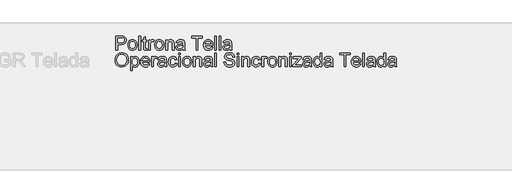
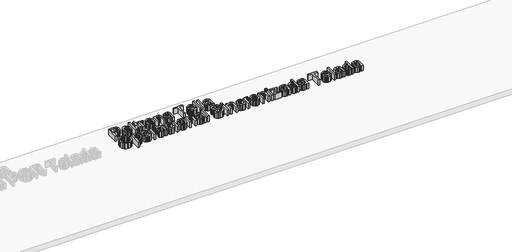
# One storey, part 5 of 5: 1 proxy.
"""IFC4 building model written with IfcOpenShell, lengths in millimetres."""

from ifc_helpers import new_model, si_unit, origin, origin_with_axes, place, context, project, spatial, polyline, outline, extrude, element, save

model = new_model("IFC4")

# Units and contexts
model_context = context("Model", 3, world=origin())
ifc_project = project(units=[si_unit("LENGTHUNIT", "METRE", prefix="MILLI")], contexts=[model_context])

# Site, building, storey
site = spatial("IfcSite", under=ifc_project)
building = spatial("IfcBuilding", under=site)
storey = spatial("IfcBuildingStorey", under=building, Name="Nível 1", Elevation=0.0)

# Proxy
placement = place(None, origin())
element("IfcBuildingElementProxy", 1, Name="300 mm", ObjectType="300 mm", at=placement, inside=storey, context=model_context, shape_type="SweptSolid", body=[
    extrude(outline(polyline([(9485.1352066, 6235.2002146), (9485.1352066, 6536.5691451), (9596.8241803, 6536.5691451), (9641.8529365, 6533.6996655), (9661.9300964, 6528.3377854), (9678.457195, 6519.6097851), (9691.7653262, 6507.1201913), (9702.1855837, 6490.4735311), (9708.9178242, 6470.8378296), (9711.1619044, 6449.3811122), (9709.6466904, 6430.8812464), (9705.1010485, 6413.8621056), (9697.5249787, 6398.3236898), (9686.9184809, 6384.2659991), (9672.3572517, 6372.6133369), (9652.9169875, 6364.2900067), (9628.5976884, 6359.2960086), (9599.3993543, 6357.6313426), (9522.8063229, 6357.6313426), (9522.8063229, 6235.2002146), (9485.1352066, 6235.2002146)]), holes=[polyline([(9522.8063229, 6395.3024589), (9601.6066462, 6395.3024589), (9635.0103314, 6398.7605497), (9657.0832511, 6409.1348219), (9669.3889039, 6425.7814822), (9673.4907881, 6448.056737), (9671.071964, 6464.9793088), (9663.8154916, 6479.2531302), (9652.6226819, 6489.9952845), (9638.3948458, 6496.3228548), (9600.7237295, 6498.8980288), (9522.8063229, 6498.8980288), (9522.8063229, 6395.3024589)])]), origin_with_axes(), (0.0, 0.0, 1.0), 150.0),
    extrude(outline(polyline([(9748.8330207, 6345.8591188), (9750.8701673, 6374.5217247), (9756.9816069, 6399.2204022), (9767.1673396, 6419.9551511), (9781.4273655, 6436.7259716), (9795.7839603, 6447.4451332), (9811.6304773, 6455.1016772), (9828.9669163, 6459.6956036), (9847.7932774, 6461.2269124), (9868.5763109, 6459.3622106), (9887.368183, 6453.768105), (9904.1688939, 6444.4445957), (9918.9784435, 6431.3916826), (9931.0656663, 6415.0508243), (9939.6993969, 6395.863479), (9944.8796352, 6373.8296467), (9946.6063813, 6348.9493275), (9943.5529608, 6310.8919351), (9934.3926991, 6281.921228), (9919.3923107, 6260.2253873), (9898.8185101, 6243.9925943), (9874.3819486, 6233.8666424), (9847.7932774, 6230.4913251), (9826.7067413, 6232.3491291), (9807.7401252, 6237.9225414), (9790.8934291, 6247.2115618), (9776.166653, 6260.2161903), (9764.2081888, 6276.7156978), (9755.6664288, 6296.489355), (9750.5413727, 6319.537162), (9748.8330207, 6345.8591188)]), holes=[polyline([(9786.504137, 6345.9326952), (9790.8635387, 6311.8392313), (9803.9417436, 6287.5498225), (9823.6234303, 6273.0092867), (9847.7932774, 6268.1624414), (9871.8527599, 6273.0368778), (9891.4976584, 6287.6601871), (9904.5758634, 6312.2714926), (9908.935265, 6347.1099175), (9904.5482722, 6380.2101001), (9891.3872938, 6404.168415), (9871.7148042, 6418.7089509), (9847.7932774, 6423.5557961), (9823.6234303, 6418.727345), (9803.9417436, 6404.2419914), (9790.8635387, 6380.007765), (9786.504137, 6345.9326952)])]), origin_with_axes(), (0.0, 0.0, 1.0), 150.0),
    extrude(outline(polyline([(9988.9863872, 6235.2002146), (9988.9863872, 6536.5691451), (10026.6575035, 6536.5691451), (10026.6575035, 6235.2002146), (9988.9863872, 6235.2002146)])), origin_with_axes(), (0.0, 0.0, 1.0), 150.0),
    extrude(outline(polyline([(10163.2153001, 6266.617337), (10167.9241896, 6234.0965686), (10139.7444288, 6230.4913251), (10121.6630287, 6232.0548236), (10108.1801536, 6236.745319), (10098.6520099, 6243.9742002), (10092.4348042, 6253.152856), (10089.0135017, 6268.9165995), (10087.8730675, 6295.9007438), (10087.8730675, 6418.8469066), (10059.6197302, 6418.8469066), (10059.6197302, 6456.5180229), (10087.8730675, 6456.5180229), (10087.8730675, 6510.3023706), (10125.5441838, 6532.4488667), (10125.5441838, 6456.5180229), (10163.2153001, 6456.5180229), (10163.2153001, 6418.8469066), (10125.5441838, 6418.8469066), (10125.5441838, 6297.0043898), (10127.5307465, 6277.5802205), (10133.9686815, 6270.7008271), (10146.8077631, 6268.1624414), (10163.2153001, 6266.617337)])), origin_with_axes(), (0.0, 0.0, 1.0), 150.0),
    extrude(outline(polyline([(10200.8864164, 6235.2002146), (10200.8864164, 6456.5180229), (10233.8486432, 6456.5180229), (10233.8486432, 6423.7765253), (10246.0255372, 6442.7592363), (10257.245938, 6453.9428489), (10268.5031271, 6459.4058966), (10280.7903857, 6461.2269124), (10299.5523675, 6458.3206447), (10318.6086548, 6449.6018414), (10306.0270906, 6415.8302742), (10292.7833388, 6421.6244157), (10279.539587, 6423.5557961), (10268.291595, 6421.6979921), (10258.2392194, 6416.1245798), (10250.1182244, 6407.2586238), (10244.6643738, 6395.5231881), (10240.084243, 6374.480338), (10238.5575327, 6351.5245015), (10238.5575327, 6235.2002146), (10200.8864164, 6235.2002146)])), origin_with_axes(), (0.0, 0.0, 1.0), 150.0),
    extrude(outline(polyline([(10332.7353235, 6345.8591188), (10334.77247, 6374.5217247), (10340.8839096, 6399.2204022), (10351.0696424, 6419.9551511), (10365.3296682, 6436.7259716), (10379.6862631, 6447.4451332), (10395.53278, 6455.1016772), (10412.8692191, 6459.6956036), (10431.6955802, 6461.2269124), (10452.4786136, 6459.3622106), (10471.2704858, 6453.768105), (10488.0711967, 6444.4445957), (10502.8807462, 6431.3916826), (10514.967969, 6415.0508243), (10523.6016996, 6395.863479), (10528.7819379, 6373.8296467), (10530.5086841, 6348.9493275), (10527.4552635, 6310.8919351), (10518.2950018, 6281.921228), (10503.2946135, 6260.2253873), (10482.7208129, 6243.9925943), (10458.2842514, 6233.8666424), (10431.6955802, 6230.4913251), (10410.609044, 6232.3491291), (10391.6424279, 6237.9225414), (10374.7957318, 6247.2115618), (10360.0689557, 6260.2161903), (10348.1104916, 6276.7156978), (10339.5687315, 6296.489355), (10334.4436755, 6319.537162), (10332.7353235, 6345.8591188)]), holes=[polyline([(10370.4064398, 6345.9326952), (10374.7658414, 6311.8392313), (10387.8440463, 6287.5498225), (10407.5257331, 6273.0092867), (10431.6955802, 6268.1624414), (10455.7550626, 6273.0368778), (10475.3999612, 6287.6601871), (10488.4781661, 6312.2714926), (10492.8375678, 6347.1099175), (10488.450575, 6380.2101001), (10475.2895966, 6404.168415), (10455.6171069, 6418.7089509), (10431.6955802, 6423.5557961), (10407.5257331, 6418.727345), (10387.8440463, 6404.2419914), (10374.7658414, 6380.007765), (10370.4064398, 6345.9326952)])]), origin_with_axes(), (0.0, 0.0, 1.0), 150.0),
    extrude(outline(polyline([(10572.8886899, 6235.2002146), (10572.8886899, 6456.5180229), (10610.5598062, 6456.5180229), (10610.5598062, 6425.6159353), (10623.6472082, 6441.1957378), (10639.3649664, 6452.3241682), (10657.7130809, 6459.0012264), (10678.6915517, 6461.2269124), (10697.2603954, 6459.4334877), (10714.2657407, 6454.0532135), (10728.4475916, 6445.7574746), (10738.5459523, 6435.2176554), (10749.8399296, 6407.5161412), (10751.8264924, 6371.0958236), (10751.8264924, 6235.2002146), (10714.1553761, 6235.2002146), (10714.1553761, 6366.0190521), (10709.8143685, 6399.3491609), (10703.8086949, 6409.2727777), (10694.4736893, 6416.9707084), (10682.5083274, 6421.9095242), (10668.6115851, 6423.5557961), (10646.5478624, 6419.8585821), (10627.7398954, 6408.7669399), (10620.2236064, 6399.7124443), (10614.8548285, 6387.3378137), (10610.5598062, 6352.6281475), (10610.5598062, 6235.2002146), (10572.8886899, 6235.2002146)])), origin_with_axes(), (0.0, 0.0, 1.0), 150.0),
    extrude(outline(polyline([(10944.8909634, 6263.4535518), (10926.8923368, 6248.0209021), (10908.3602813, 6237.9225414), (10888.8717326, 6232.3491291), (10868.0036264, 6230.4913251), (10836.5221247, 6234.9610913), (10813.2995738, 6248.37039), (10798.9797671, 6268.7326585), (10794.2064982, 6294.0613338), (10796.00912, 6309.6779245), (10801.4169853, 6323.8597754), (10809.7587096, 6335.9998813), (10820.3629081, 6345.4912368), (10846.7400471, 6357.8520718), (10879.3343919, 6363.5174545), (10917.8516368, 6369.4771429), (10944.6702342, 6376.4669008), (10944.8909634, 6384.8546102), (10942.2973954, 6401.6668174), (10934.5166912, 6412.6664891), (10917.1158728, 6420.8334694), (10892.8724493, 6423.5557961), (10870.4316476, 6421.7439773), (10854.7598746, 6416.3085208), (10844.0729027, 6406.2561453), (10836.5865041, 6390.5935694), (10798.9153877, 6395.3024589), (10805.4544902, 6415.9038506), (10815.2125601, 6432.0906584), (10829.1001054, 6444.4698876), (10848.0276341, 6453.6485433), (10871.1766086, 6459.3323202), (10897.7284916, 6461.2269124), (10923.1951228, 6459.5530494), (10943.3826473, 6454.5314601), (10958.6037648, 6446.9806822), (10969.1711751, 6437.719253), (10976.1793271, 6426.2689259), (10980.7226698, 6412.1514543), (10982.5620797, 6379.1892275), (10982.5620797, 6332.3210613), (10984.4750661, 6266.8748544), (10991.9798588, 6235.2002146), (10954.3087425, 6235.2002146), (10944.8909634, 6263.4535518)]), holes=[polyline([(10944.8909634, 6338.7957845), (10884.1168578, 6327.2442898), (10851.7064541, 6321.1374487), (10837.0279624, 6311.2046348), (10831.8776145, 6296.7100842), (10834.6827147, 6285.5080775), (10843.0980154, 6276.3294217), (10856.9395754, 6270.2041865), (10876.0234539, 6268.1624414), (10896.2569637, 6270.4157186), (10914.1360286, 6277.1755503), (10928.6305792, 6287.1359553), (10938.7105459, 6298.9909526), (10943.1803122, 6311.2046348), (10944.6702342, 6328.1272066), (10944.8909634, 6338.7957845)])]), origin_with_axes(), (0.0, 0.0, 1.0), 150.0),
    extrude(outline(polyline([(11232.1332253, 6235.2002146), (11232.1332253, 6498.8980288), (11133.246545, 6498.8980288), (11133.246545, 6536.5691451), (11368.6910219, 6536.5691451), (11368.6910219, 6498.8980288), (11269.8043416, 6498.8980288), (11269.8043416, 6235.2002146), (11232.1332253, 6235.2002146)])), origin_with_axes(), (0.0, 0.0, 1.0), 150.0),
    extrude(outline(polyline([(11561.3140345, 6301.1246681), (11598.2493869, 6296.4157786), (11584.9412557, 6268.5855057), (11563.7052675, 6247.7817788), (11535.0196689, 6234.8139385), (11499.3627066, 6230.4913251), (11475.9884043, 6232.3560269), (11455.1616848, 6237.9501325), (11436.8825482, 6247.2736418), (11421.1509944, 6260.3265549), (11408.5004523, 6276.7455882), (11399.4643508, 6296.1674583), (11394.0426899, 6318.5921651), (11392.2354696, 6344.0197088), (11394.061084, 6370.3094759), (11399.5379272, 6393.481443), (11408.6659992, 6413.5356103), (11421.4453, 6430.4719777), (11437.1354671, 6443.9272616), (11454.9961379, 6453.5381787), (11475.0273126, 6459.304729), (11497.228991, 6461.2269124), (11518.7155988, 6459.3093275), (11538.1466659, 6453.5565728), (11555.5221924, 6443.9686483), (11570.8421782, 6430.545554), (11583.3478668, 6413.6459749), (11592.2805015, 6393.6285958), (11597.6400823, 6370.4934169), (11599.4266092, 6344.240438), (11599.2058801, 6334.0868949), (11429.9065859, 6334.0868949), (11436.4272942, 6305.88874), (11451.5748354, 6285.1585896), (11473.436223, 6272.4114784), (11500.0984706, 6268.1624414), (11520.1480393, 6270.1306101), (11537.0338229, 6276.0351161), (11550.7558213, 6286.2438414), (11561.3140345, 6301.1246681)]), holes=[polyline([(11429.9065859, 6371.7580112), (11561.7554929, 6371.7580112), (11556.6603273, 6391.6604272), (11546.6723311, 6405.8974604), (11524.709776, 6419.1412122), (11497.0818382, 6423.5557961), (11471.6887835, 6420.033326), (11450.6919186, 6409.4659157), (11436.0962004, 6392.9939994), (11429.9065859, 6371.7580112)])]), origin_with_axes(), (0.0, 0.0, 1.0), 150.0),
    extrude(outline(polyline([(11637.0977256, 6235.2002146), (11637.0977256, 6536.5691451), (11674.7688419, 6536.5691451), (11674.7688419, 6235.2002146), (11637.0977256, 6235.2002146)])), origin_with_axes(), (0.0, 0.0, 1.0), 150.0),
    extrude(outline(polyline([(11731.2755163, 6235.2002146), (11731.2755163, 6536.5691451), (11768.9466326, 6536.5691451), (11768.9466326, 6235.2002146), (11731.2755163, 6235.2002146)])), origin_with_axes(), (0.0, 0.0, 1.0), 150.0),
    extrude(outline(polyline([(11966.7199932, 6263.4535518), (11948.7213666, 6248.0209021), (11930.1893111, 6237.9225414), (11910.7007624, 6232.3491291), (11889.8326562, 6230.4913251), (11858.3511545, 6234.9610913), (11835.1286036, 6248.37039), (11820.8087969, 6268.7326585), (11816.035528, 6294.0613338), (11817.8381498, 6309.6779245), (11823.2460151, 6323.8597754), (11831.5877394, 6335.9998813), (11842.1919379, 6345.4912368), (11868.5690769, 6357.8520718), (11901.1634217, 6363.5174545), (11939.6806666, 6369.4771429), (11966.499264, 6376.4669008), (11966.7199932, 6384.8546102), (11964.1264252, 6401.6668174), (11956.345721, 6412.6664891), (11938.9449026, 6420.8334694), (11914.7014791, 6423.5557961), (11892.2606774, 6421.7439773), (11876.5889044, 6416.3085208), (11865.9019325, 6406.2561453), (11858.4155339, 6390.5935694), (11820.7444175, 6395.3024589), (11827.28352, 6415.9038506), (11837.0415899, 6432.0906584), (11850.9291353, 6444.4698876), (11869.8566639, 6453.6485433), (11893.0056385, 6459.3323202), (11919.5575215, 6461.2269124), (11945.0241526, 6459.5530494), (11965.2116771, 6454.5314601), (11980.4327946, 6446.9806822), (11991.0002049, 6437.719253), (11998.0083569, 6426.2689259), (12002.5516996, 6412.1514543), (12004.3911095, 6379.1892275), (12004.3911095, 6332.3210613), (12006.3040959, 6266.8748544), (12013.8088886, 6235.2002146), (11976.1377723, 6235.2002146), (11966.7199932, 6263.4535518)]), holes=[polyline([(11966.7199932, 6338.7957845), (11905.9458876, 6327.2442898), (11873.5354839, 6321.1374487), (11858.8569922, 6311.2046348), (11853.7066443, 6296.7100842), (11856.5117445, 6285.5080775), (11864.9270452, 6276.3294217), (11878.7686052, 6270.2041865), (11897.8524837, 6268.1624414), (11918.0859935, 6270.4157186), (11935.9650584, 6277.1755503), (11950.459609, 6287.1359553), (11960.5395757, 6298.9909526), (11965.009342, 6311.2046348), (11966.499264, 6328.1272066), (11966.7199932, 6338.7957845)])]), origin_with_axes(), (0.0, 0.0, 1.0), 150.0),
    extrude(outline(polyline([(9471.008538, 6015.9871008), (9473.5193326, 6051.335962), (9481.0517164, 6082.6289242), (9493.6056895, 6109.8659874), (9511.1812518, 6133.0471516), (9532.7253412, 6151.5562145), (9557.1848953, 6164.7769737), (9584.5599143, 6172.7094292), (9614.8503981, 6175.3535811), (9654.3793185, 6170.3871741), (9689.8247487, 6155.4879533), (9719.2553083, 6131.7043823), (9740.7396168, 6100.0849248), (9753.873004, 6062.1562911), (9758.2507998, 6019.4451915), (9753.6430778, 5976.1638748), (9739.8199118, 5937.7018122), (9717.544657, 5906.0271724), (9687.5806685, 5883.1081241), (9652.4387409, 5869.2021847), (9614.6296689, 5864.5668715), (9574.4937432, 5869.6896283), (9538.8459779, 5885.0578987), (9509.4889947, 5909.2829281), (9488.2254153, 5940.9759619), (9475.3127573, 5977.4422647), (9471.008538, 6015.9871008)]), holes=[polyline([(9508.6796543, 6015.6192188), (9510.5627502, 5990.6446298), (9516.2120381, 5968.4751411), (9525.6275179, 5949.1107526), (9538.8091897, 5932.5514642), (9554.8327498, 5919.2893183), (9572.7738949, 5909.8163569), (9592.6326248, 5904.1325801), (9614.4089397, 5902.2379878), (9636.557735, 5904.1509742), (9656.6509898, 5909.8899333), (9674.6887038, 5919.4548652), (9690.6708773, 5932.8457698), (9703.75598, 5949.754546), (9713.1024819, 5969.8730927), (9718.7103831, 5993.2014097), (9720.5796835, 6019.7394971), (9717.3791101, 6053.088), (9707.7773901, 6081.9115543), (9692.0228436, 6105.4835931), (9670.3637911, 6123.0775495), (9644.2349724, 6134.031236), (9615.0711273, 6137.6824648), (9594.0512698, 6135.923529), (9574.5489255, 6130.6467216), (9556.5640945, 6121.8520427), (9540.0967766, 6109.5394921), (9526.3517856, 6093.1158603), (9516.5339349, 6071.9879375), (9510.6432244, 6046.1557236), (9508.6796543, 6015.6192188)])]), origin_with_axes(), (0.0, 0.0, 1.0), 150.0),
    extrude(outline(polyline([(9805.3396952, 5784.5157494), (9805.3396952, 6090.5935694), (9843.0108115, 6090.5935694), (9843.0108115, 6053.6582171), (9855.2980701, 6071.8775729), (9869.0568567, 6084.8913984), (9885.0965117, 6092.6996938), (9904.2263755, 6095.3024589), (9929.7022036, 6091.6604272), (9951.9774584, 6080.7343319), (9970.1140408, 6063.1863607), (9983.1738516, 6039.6787012), (9991.0649204, 6011.9220047), (9993.6952767, 5981.6269224), (9990.7246296, 5949.4096567), (9981.8126883, 5920.5952994), (9967.2445612, 5896.6461815), (9947.3053571, 5879.0246339), (9924.0828062, 5868.1813121), (9899.6646387, 5864.5668715), (9882.3465938, 5866.9856957), (9866.886353, 5874.242168), (9853.6517982, 5885.1958544), (9843.0108115, 5898.7063207), (9843.0108115, 5784.5157494), (9805.3396952, 5784.5157494)]), holes=[polyline([(9843.0108115, 5978.1688316), (9847.0851046, 5944.3972645), (9859.3079839, 5920.7792404), (9877.3433987, 5906.873301), (9898.8552983, 5902.2379878), (9920.7166859, 5907.0388479), (9939.2119532, 5921.441428), (9951.8211086, 5945.9239748), (9956.0241604, 5980.9647348), (9951.9222761, 6014.552361), (9939.6166234, 6038.5014789), (9921.6087997, 6052.8488767), (9900.4004027, 6057.6313426), (9879.1092323, 6052.545374), (9860.4116298, 6037.2874683), (9847.3610161, 6012.3358719), (9843.0108115, 5978.1688316)])]), origin_with_axes(), (0.0, 0.0, 1.0), 150.0),
    extrude(outline(polyline([(10191.0271789, 5935.2002146), (10227.9625312, 5930.4913251), (10214.6544001, 5902.6610521), (10193.4184119, 5881.8573253), (10164.7328133, 5868.889485), (10129.0758509, 5864.5668715), (10105.7015487, 5866.4315734), (10084.8748292, 5872.025679), (10066.5956926, 5881.3491883), (10050.8641388, 5894.4021013), (10038.2135966, 5910.8211346), (10029.1774951, 5930.2430047), (10023.7558342, 5952.6677116), (10021.9486139, 5978.0952552), (10023.7742283, 6004.3850223), (10029.2510715, 6027.5569895), (10038.3791435, 6047.6111568), (10051.1584443, 6064.5475241), (10066.8486114, 6078.0028081), (10084.7092823, 6087.6137252), (10104.7404569, 6093.3802755), (10126.9421354, 6095.3024589), (10148.4287431, 6093.384874), (10167.8598103, 6087.6321193), (10185.2353368, 6078.0441948), (10200.5553226, 6064.6211005), (10213.0610112, 6047.7215214), (10221.9936459, 6027.7041423), (10227.3532267, 6004.5689633), (10229.1397536, 5978.3159844), (10228.9190244, 5968.1624414), (10059.6197302, 5968.1624414), (10066.1404386, 5939.9642864), (10081.2879798, 5919.234136), (10103.1493673, 5906.4870249), (10129.8116149, 5902.2379878), (10149.8611837, 5904.2061565), (10166.7469672, 5910.1106625), (10180.4689657, 5920.3193879), (10191.0271789, 5935.2002146)]), holes=[polyline([(10059.6197302, 6005.8335577), (10191.4686373, 6005.8335577), (10186.3734717, 6025.7359736), (10176.3854755, 6039.9730068), (10154.4229204, 6053.2167587), (10126.7949826, 6057.6313426), (10101.4019278, 6054.1088725), (10080.405063, 6043.5414622), (10065.8093448, 6027.0695459), (10059.6197302, 6005.8335577)])]), origin_with_axes(), (0.0, 0.0, 1.0), 150.0),
    extrude(outline(polyline([(10266.8108699, 5869.2757611), (10266.8108699, 6090.5935694), (10299.7730967, 6090.5935694), (10299.7730967, 6057.8520718), (10311.9499907, 6076.8347828), (10323.1703916, 6088.0183954), (10334.4275806, 6093.481443), (10346.7148393, 6095.3024589), (10365.476821, 6092.3961911), (10384.5331084, 6083.6773879), (10371.9515441, 6049.9058207), (10358.7077923, 6055.6999621), (10345.4640405, 6057.6313426), (10334.2160485, 6055.7735385), (10324.163673, 6050.2001263), (10316.0426779, 6041.3341702), (10310.5888273, 6029.5987346), (10306.0086965, 6008.5558844), (10304.4819862, 5985.6000479), (10304.4819862, 5869.2757611), (10266.8108699, 5869.2757611)])), origin_with_axes(), (0.0, 0.0, 1.0), 150.0),
    extrude(outline(polyline([(10549.3442422, 5897.5290983), (10531.3456156, 5882.0964486), (10512.8135601, 5871.9980878), (10493.3250114, 5866.4246756), (10472.4569052, 5864.5668715), (10440.9754035, 5869.0366378), (10417.7528525, 5882.4459365), (10403.4330459, 5902.8082049), (10398.659777, 5928.1368803), (10400.4623988, 5943.753471), (10405.8702641, 5957.9353219), (10414.2119883, 5970.0754278), (10424.8161868, 5979.5667832), (10451.1933259, 5991.9276183), (10483.7876707, 5997.593001), (10522.3049156, 6003.5526893), (10549.123513, 6010.5424472), (10549.3442422, 6018.9301567), (10546.7506742, 6035.7423639), (10538.96997, 6046.7420355), (10521.5691516, 6054.9090158), (10497.3257281, 6057.6313426), (10474.8849264, 6055.8195238), (10459.2131534, 6050.3840673), (10448.5261814, 6040.3316918), (10441.0397828, 6024.6691158), (10403.3686665, 6029.3780054), (10409.907769, 6049.9793971), (10419.6658389, 6066.1662049), (10433.5533842, 6078.545434), (10452.4809129, 6087.7240898), (10475.6298874, 6093.4078666), (10502.1817704, 6095.3024589), (10527.6484016, 6093.6285958), (10547.835926, 6088.6070066), (10563.0570436, 6081.0562286), (10573.6244539, 6071.7947994), (10580.6326059, 6060.3444723), (10585.1759485, 6046.2270008), (10587.0153585, 6013.264774), (10587.0153585, 5966.3966078), (10588.9283449, 5900.9504009), (10596.4331376, 5869.2757611), (10558.7620213, 5869.2757611), (10549.3442422, 5897.5290983)]), holes=[polyline([(10549.3442422, 5972.8713309), (10488.5701366, 5961.3198363), (10456.1597328, 5955.2129951), (10441.4812412, 5945.2801813), (10436.3308933, 5930.7856307), (10439.1359935, 5919.5836239), (10447.5512942, 5910.4049681), (10461.3928542, 5904.2797329), (10480.4767327, 5902.2379878), (10500.7102425, 5904.4912651), (10518.5893074, 5911.2510967), (10533.083858, 5921.2115017), (10543.1638247, 5933.066499), (10547.6335909, 5945.2801813), (10549.123513, 5962.2027531), (10549.3442422, 5972.8713309)])]), origin_with_axes(), (0.0, 0.0, 1.0), 150.0),
    extrude(outline(polyline([(10780.0798296, 5949.3268832), (10817.7509459, 5944.6179937), (10807.2479149, 5911.113141), (10787.5110459, 5885.7936627), (10760.3981428, 5869.8735693), (10727.7670099, 5864.5668715), (10706.639087, 5866.4177778), (10687.6954636, 5871.9704967), (10670.9361394, 5881.2250281), (10656.3611146, 5894.1813721), (10644.5635989, 5910.5958069), (10636.1368019, 5930.2246106), (10631.0807238, 5953.0677833), (10629.3953644, 5979.1253248), (10632.274041, 6012.6485716), (10640.9100708, 6041.7020522), (10655.4414096, 6065.1637265), (10676.0060132, 6081.9115543), (10700.6081216, 6091.9547328), (10727.2519751, 6095.3024589), (10759.0829647, 6090.703934), (10784.5312017, 6076.9083592), (10802.7873457, 6054.6514984), (10813.0420564, 6024.6691158), (10775.3709401, 6019.9602263), (10768.537532, 6036.3953544), (10757.8965453, 6048.1767753), (10744.0365911, 6055.2677008), (10727.5462807, 6057.6313426), (10703.2016896, 6052.9776354), (10683.8786879, 6039.0165136), (10671.2695325, 6014.9938194), (10667.0664807, 5980.1553944), (10671.177562, 5944.8479199), (10683.5108059, 5920.7424522), (10702.4843198, 5906.8641039), (10726.5162111, 5902.2379878), (10746.0231539, 5905.1258615), (10762.0168236, 5913.7894825), (10773.6510917, 5928.44958), (10780.0798296, 5949.3268832)])), origin_with_axes(), (0.0, 0.0, 1.0), 150.0),
    extrude(outline(polyline([(10850.7131727, 6132.9735752), (10850.7131727, 6170.6446915), (10888.384289, 6170.6446915), (10888.384289, 6132.9735752), (10850.7131727, 6132.9735752)])), origin_with_axes(), (0.0, 0.0, 1.0), 150.0),
    extrude(outline(polyline([(10850.7131727, 5869.2757611), (10850.7131727, 6090.5935694), (10888.384289, 6090.5935694), (10888.384289, 5869.2757611), (10850.7131727, 5869.2757611)])), origin_with_axes(), (0.0, 0.0, 1.0), 150.0),
    extrude(outline(polyline([(10935.4731844, 5979.9346652), (10937.5103309, 6008.5972712), (10943.6217705, 6033.2959486), (10953.8075033, 6054.0306976), (10968.0675291, 6070.801518), (10982.424124, 6081.5206797), (10998.2706409, 6089.1772237), (11015.60708, 6093.7711501), (11034.4334411, 6095.3024589), (11055.2164745, 6093.437757), (11074.0083467, 6087.8436515), (11090.8090576, 6078.5201421), (11105.6186071, 6065.4672291), (11117.7058299, 6049.1263707), (11126.3395605, 6029.9390254), (11131.5197988, 6007.9051932), (11133.246545, 5983.024874), (11130.1931244, 5944.9674816), (11121.0328627, 5915.9967745), (11106.0324744, 5894.3009338), (11085.4586738, 5878.0681408), (11061.0221123, 5867.9421888), (11034.4334411, 5864.5668715), (11013.3469049, 5866.4246756), (10994.3802888, 5871.9980878), (10977.5335927, 5881.2871082), (10962.8068166, 5894.2917367), (10950.8483525, 5910.7912442), (10942.3065924, 5930.5649015), (10937.1815364, 5953.6127085), (10935.4731844, 5979.9346652)]), holes=[polyline([(10973.1443007, 5980.0082416), (10977.5037023, 5945.9147777), (10990.5819072, 5921.625369), (11010.263594, 5907.0848331), (11034.4334411, 5902.2379878), (11058.4929235, 5907.1124243), (11078.1378221, 5921.7357336), (11091.216027, 5946.3470391), (11095.5754287, 5981.185464), (11091.1884359, 6014.2856465), (11078.0274575, 6038.2439615), (11058.3549678, 6052.7844973), (11034.4334411, 6057.6313426), (11010.263594, 6052.8028914), (10990.5819072, 6038.3175379), (10977.5037023, 6014.0833114), (10973.1443007, 5980.0082416)])]), origin_with_axes(), (0.0, 0.0, 1.0), 150.0),
    extrude(outline(polyline([(11175.6265508, 5869.2757611), (11175.6265508, 6090.5935694), (11213.2976671, 6090.5935694), (11213.2976671, 6059.6914818), (11226.3850691, 6075.2712843), (11242.1028273, 6086.3997146), (11260.4509418, 6093.0767728), (11281.4294126, 6095.3024589), (11299.9982563, 6093.5090342), (11317.0036016, 6088.12876), (11331.1854525, 6079.833021), (11341.2838132, 6069.2932019), (11352.5777905, 6041.5916876), (11354.5643533, 6005.1713701), (11354.5643533, 5869.2757611), (11316.893237, 5869.2757611), (11316.893237, 6000.0945986), (11312.5522294, 6033.4247073), (11306.5465558, 6043.3483241), (11297.2115502, 6051.0462549), (11285.2461883, 6055.9850707), (11271.349446, 6057.6313426), (11249.2857233, 6053.9341286), (11230.4777563, 6042.8424864), (11222.9614673, 6033.7879908), (11217.5926894, 6021.4133602), (11213.2976671, 5986.7036939), (11213.2976671, 5869.2757611), (11175.6265508, 5869.2757611)])), origin_with_axes(), (0.0, 0.0, 1.0), 150.0),
    extrude(outline(polyline([(11547.6288243, 5897.5290983), (11529.6301977, 5882.0964486), (11511.0981422, 5871.9980878), (11491.6095935, 5866.4246756), (11470.7414873, 5864.5668715), (11439.2599856, 5869.0366378), (11416.0374347, 5882.4459365), (11401.717628, 5902.8082049), (11396.9443591, 5928.1368803), (11398.7469809, 5943.753471), (11404.1548462, 5957.9353219), (11412.4965705, 5970.0754278), (11423.100769, 5979.5667832), (11449.477908, 5991.9276183), (11482.0722528, 5997.593001), (11520.5894977, 6003.5526893), (11547.4080951, 6010.5424472), (11547.6288243, 6018.9301567), (11545.0352563, 6035.7423639), (11537.2545521, 6046.7420355), (11519.8537337, 6054.9090158), (11495.6103102, 6057.6313426), (11473.1695085, 6055.8195238), (11457.4977355, 6050.3840673), (11446.8107636, 6040.3316918), (11439.3243649, 6024.6691158), (11401.6532486, 6029.3780054), (11408.1923511, 6049.9793971), (11417.950421, 6066.1662049), (11431.8379663, 6078.545434), (11450.765495, 6087.7240898), (11473.9144695, 6093.4078666), (11500.4663525, 6095.3024589), (11525.9329837, 6093.6285958), (11546.1205081, 6088.6070066), (11561.3416257, 6081.0562286), (11571.909036, 6071.7947994), (11578.917188, 6060.3444723), (11583.4605307, 6046.2270008), (11585.2999406, 6013.264774), (11585.2999406, 5966.3966078), (11587.212927, 5900.9504009), (11594.7177197, 5869.2757611), (11557.0466034, 5869.2757611), (11547.6288243, 5897.5290983)]), holes=[polyline([(11547.6288243, 5972.8713309), (11486.8547187, 5961.3198363), (11454.444315, 5955.2129951), (11439.7658233, 5945.2801813), (11434.6154754, 5930.7856307), (11437.4205756, 5919.5836239), (11445.8358763, 5910.4049681), (11459.6774363, 5904.2797329), (11478.7613148, 5902.2379878), (11498.9948246, 5904.4912651), (11516.8738895, 5911.2510967), (11531.3684401, 5921.2115017), (11541.4484068, 5933.066499), (11545.9181731, 5945.2801813), (11547.4080951, 5962.2027531), (11547.6288243, 5972.8713309)])]), origin_with_axes(), (0.0, 0.0, 1.0), 150.0),
    extrude(outline(polyline([(11637.0977256, 5869.2757611), (11637.0977256, 6170.6446915), (11674.7688419, 6170.6446915), (11674.7688419, 5869.2757611), (11637.0977256, 5869.2757611)])), origin_with_axes(), (0.0, 0.0, 1.0), 150.0),
    extrude(outline(polyline([(11839.5799757, 5972.8713309), (11877.251092, 5972.8713309), (11881.5737055, 5951.9664365), (11889.3911978, 5935.1634264), (11901.586486, 5921.8277041), (11919.0424867, 5911.3246731), (11940.3796424, 5904.5096592), (11964.2183957, 5902.2379878), (11985.2060635, 5903.9578362), (12003.5817692, 5909.1173812), (12018.4717929, 5917.2843614), (12029.002415, 5928.0265157), (12035.265606, 5940.3597596), (12037.3533363, 5953.3000088), (12035.7898378, 5965.9091642), (12031.0993424, 5976.8076683), (12021.5711987, 5986.1058857), (12005.4947555, 5993.914181), (11950.64355, 6008.2983671), (11914.6370998, 6017.8173137), (11891.5984898, 6026.8764078), (11872.8457051, 6039.5499425), (11859.555968, 6054.9090158), (11851.6373081, 6072.6225339), (11848.9977548, 6092.359403), (11852.2627075, 6114.4231256), (11862.0575656, 6134.9969262), (11878.1248117, 6152.4345328), (11900.2069285, 6165.0896734), (11926.7128263, 6172.7876041), (11956.0514154, 6175.3535811), (11987.8364198, 6172.6680425), (12015.6482986, 6164.6114268), (12038.4937705, 6151.3492809), (12055.3795541, 6133.0471516), (12066.066526, 6110.8454732), (12070.3155631, 6085.8846798), (12032.6444468, 6085.8846798), (12025.7282653, 6108.3622697), (12011.307291, 6124.5858657), (11988.7745188, 6134.408315), (11957.5229434, 6137.6824648), (11925.5356039, 6134.4451032), (11903.5914429, 6124.7330185), (11890.899514, 6110.440803), (11886.6688711, 6093.4630489), (11889.6671093, 6078.9868924), (11898.6618241, 6067.3434273), (11919.9254034, 6056.9323668), (11960.1716937, 6046.3005772), (12001.705571, 6036.2022164), (12026.8319112, 6027.3914426), (12048.3070227, 6013.7246265), (12063.289017, 5996.857237), (12072.0905937, 5976.9732152), (12075.0244526, 5954.256502), (12071.6491353, 5931.033951), (12061.5231834, 5909.1909576), (12045.0604641, 5890.3921876), (12022.6748447, 5876.3023072), (11995.7550797, 5867.5007304), (11965.6899236, 5864.5668715), (11928.7821625, 5867.7306567), (11898.4043067, 5877.2220122), (11874.2068685, 5893.0777262), (11855.8403599, 5915.3345869), (11844.0497419, 5942.4474899), (11839.5799757, 5972.8713309)])), origin_with_axes(), (0.0, 0.0, 1.0), 150.0),
    extrude(outline(polyline([(12126.8222375, 6132.9735752), (12126.8222375, 6170.6446915), (12164.4933538, 6170.6446915), (12164.4933538, 6132.9735752), (12126.8222375, 6132.9735752)])), origin_with_axes(), (0.0, 0.0, 1.0), 150.0),
    extrude(outline(polyline([(12126.8222375, 5869.2757611), (12126.8222375, 6090.5935694), (12164.4933538, 6090.5935694), (12164.4933538, 5869.2757611), (12126.8222375, 5869.2757611)])), origin_with_axes(), (0.0, 0.0, 1.0), 150.0),
    extrude(outline(polyline([(12221.0000283, 5869.2757611), (12221.0000283, 6090.5935694), (12258.6711446, 6090.5935694), (12258.6711446, 6059.6914818), (12271.7585466, 6075.2712843), (12287.4763048, 6086.3997146), (12305.8244193, 6093.0767728), (12326.8028901, 6095.3024589), (12345.3717338, 6093.5090342), (12362.377079, 6088.12876), (12376.55893, 6079.833021), (12386.6572907, 6069.2932019), (12397.951268, 6041.5916876), (12399.9378308, 6005.1713701), (12399.9378308, 5869.2757611), (12362.2667144, 5869.2757611), (12362.2667144, 6000.0945986), (12357.9257069, 6033.4247073), (12351.9200333, 6043.3483241), (12342.5850277, 6051.0462549), (12330.6196658, 6055.9850707), (12316.7229234, 6057.6313426), (12294.6592008, 6053.9341286), (12275.8512338, 6042.8424864), (12268.3349448, 6033.7879908), (12262.9661669, 6021.4133602), (12258.6711446, 5986.7036939), (12258.6711446, 5869.2757611), (12221.0000283, 5869.2757611)])), origin_with_axes(), (0.0, 0.0, 1.0), 150.0),
    extrude(outline(polyline([(12593.0023018, 5949.3268832), (12630.6734181, 5944.6179937), (12620.1703872, 5911.113141), (12600.4335181, 5885.7936627), (12573.3206151, 5869.8735693), (12540.6894821, 5864.5668715), (12519.5615593, 5866.4177778), (12500.6179358, 5871.9704967), (12483.8586116, 5881.2250281), (12469.2835868, 5894.1813721), (12457.4860711, 5910.5958069), (12449.0592742, 5930.2246106), (12444.003196, 5953.0677833), (12442.3178366, 5979.1253248), (12445.1965132, 6012.6485716), (12453.832543, 6041.7020522), (12468.3638819, 6065.1637265), (12488.9284854, 6081.9115543), (12513.5305938, 6091.9547328), (12540.1744473, 6095.3024589), (12572.0054369, 6090.703934), (12597.453674, 6076.9083592), (12615.709818, 6054.6514984), (12625.9645286, 6024.6691158), (12588.2934123, 6019.9602263), (12581.4600042, 6036.3953544), (12570.8190175, 6048.1767753), (12556.9590633, 6055.2677008), (12540.4687529, 6057.6313426), (12516.1241619, 6052.9776354), (12496.8011601, 6039.0165136), (12484.1920047, 6014.9938194), (12479.9889529, 5980.1553944), (12484.1000342, 5944.8479199), (12496.4332781, 5920.7424522), (12515.406792, 5906.8641039), (12539.4386833, 5902.2379878), (12558.9456261, 5905.1258615), (12574.9392959, 5913.7894825), (12586.573564, 5928.44958), (12593.0023018, 5949.3268832)])), origin_with_axes(), (0.0, 0.0, 1.0), 150.0),
    extrude(outline(polyline([(12663.6356449, 5869.2757611), (12663.6356449, 6090.5935694), (12696.5978717, 6090.5935694), (12696.5978717, 6057.8520718), (12708.7747657, 6076.8347828), (12719.9951666, 6088.0183954), (12731.2523556, 6093.481443), (12743.5396142, 6095.3024589), (12762.301596, 6092.3961911), (12781.3578834, 6083.6773879), (12768.7763191, 6049.9058207), (12755.5325673, 6055.6999621), (12742.2888155, 6057.6313426), (12731.0408235, 6055.7735385), (12720.9884479, 6050.2001263), (12712.8674529, 6041.3341702), (12707.4136023, 6029.5987346), (12702.8334715, 6008.5558844), (12701.3067612, 5985.6000479), (12701.3067612, 5869.2757611), (12663.6356449, 5869.2757611)])), origin_with_axes(), (0.0, 0.0, 1.0), 150.0),
    extrude(outline(polyline([(12795.484552, 5979.9346652), (12797.5216985, 6008.5972712), (12803.6331382, 6033.2959486), (12813.8188709, 6054.0306976), (12828.0788967, 6070.801518), (12842.4354916, 6081.5206797), (12858.2820085, 6089.1772237), (12875.6184476, 6093.7711501), (12894.4448087, 6095.3024589), (12915.2278421, 6093.437757), (12934.0197143, 6087.8436515), (12950.8204252, 6078.5201421), (12965.6299747, 6065.4672291), (12977.7171975, 6049.1263707), (12986.3509281, 6029.9390254), (12991.5311665, 6007.9051932), (12993.2579126, 5983.024874), (12990.204492, 5944.9674816), (12981.0442303, 5915.9967745), (12966.043842, 5894.3009338), (12945.4700414, 5878.0681408), (12921.0334799, 5867.9421888), (12894.4448087, 5864.5668715), (12873.3582726, 5866.4246756), (12854.3916564, 5871.9980878), (12837.5449603, 5881.2871082), (12822.8181842, 5894.2917367), (12810.8597201, 5910.7912442), (12802.31796, 5930.5649015), (12797.192904, 5953.6127085), (12795.484552, 5979.9346652)]), holes=[polyline([(12833.1556683, 5980.0082416), (12837.5150699, 5945.9147777), (12850.5932748, 5921.625369), (12870.2749616, 5907.0848331), (12894.4448087, 5902.2379878), (12918.5042912, 5907.1124243), (12938.1491897, 5921.7357336), (12951.2273946, 5946.3470391), (12955.5867963, 5981.185464), (12951.1998035, 6014.2856465), (12938.0388251, 6038.2439615), (12918.3663354, 6052.7844973), (12894.4448087, 6057.6313426), (12870.2749616, 6052.8028914), (12850.5932748, 6038.3175379), (12837.5150699, 6014.0833114), (12833.1556683, 5980.0082416)])]), origin_with_axes(), (0.0, 0.0, 1.0), 150.0),
    extrude(outline(polyline([(13035.6379184, 5869.2757611), (13035.6379184, 6090.5935694), (13073.3090347, 6090.5935694), (13073.3090347, 6059.6914818), (13086.3964367, 6075.2712843), (13102.1141949, 6086.3997146), (13120.4623095, 6093.0767728), (13141.4407802, 6095.3024589), (13160.0096239, 6093.5090342), (13177.0149692, 6088.12876), (13191.1968201, 6079.833021), (13201.2951808, 6069.2932019), (13212.5891581, 6041.5916876), (13214.5757209, 6005.1713701), (13214.5757209, 5869.2757611), (13176.9046046, 5869.2757611), (13176.9046046, 6000.0945986), (13172.563597, 6033.4247073), (13166.5579235, 6043.3483241), (13157.2229178, 6051.0462549), (13145.2575559, 6055.9850707), (13131.3608136, 6057.6313426), (13109.2970909, 6053.9341286), (13090.4891239, 6042.8424864), (13082.9728349, 6033.7879908), (13077.604057, 6021.4133602), (13073.3090347, 5986.7036939), (13073.3090347, 5869.2757611), (13035.6379184, 5869.2757611)])), origin_with_axes(), (0.0, 0.0, 1.0), 150.0),
    extrude(outline(polyline([(13266.3735058, 6132.9735752), (13266.3735058, 6170.6446915), (13304.0446221, 6170.6446915), (13304.0446221, 6132.9735752), (13266.3735058, 6132.9735752)])), origin_with_axes(), (0.0, 0.0, 1.0), 150.0),
    extrude(outline(polyline([(13266.3735058, 5869.2757611), (13266.3735058, 6090.5935694), (13304.0446221, 6090.5935694), (13304.0446221, 5869.2757611), (13266.3735058, 5869.2757611)])), origin_with_axes(), (0.0, 0.0, 1.0), 150.0),
    extrude(outline(polyline([(13337.0068489, 5869.2757611), (13337.0068489, 5904.7395854), (13467.016346, 6052.9224531), (13428.5358893, 6052.9224531), (13346.4246279, 6052.9224531), (13346.4246279, 6090.5935694), (13520.6535409, 6090.5935694), (13520.6535409, 6058.5878358), (13405.3593236, 5927.1068107), (13387.7009878, 5906.9468774), (13431.258216, 5906.9468774), (13525.3624304, 5906.9468774), (13525.3624304, 5869.2757611), (13337.0068489, 5869.2757611)])), origin_with_axes(), (0.0, 0.0, 1.0), 150.0),
    extrude(outline(polyline([(13704.3002329, 5897.5290983), (13686.3016062, 5882.0964486), (13667.7695507, 5871.9980878), (13648.281002, 5866.4246756), (13627.4128959, 5864.5668715), (13595.9313941, 5869.0366378), (13572.7088432, 5882.4459365), (13558.3890365, 5902.8082049), (13553.6157676, 5928.1368803), (13555.4183894, 5943.753471), (13560.8262547, 5957.9353219), (13569.167979, 5970.0754278), (13579.7721775, 5979.5667832), (13606.1493165, 5991.9276183), (13638.7436613, 5997.593001), (13677.2609062, 6003.5526893), (13704.0795037, 6010.5424472), (13704.3002329, 6018.9301567), (13701.7066648, 6035.7423639), (13693.9259606, 6046.7420355), (13676.5251422, 6054.9090158), (13652.2817187, 6057.6313426), (13629.840917, 6055.8195238), (13614.169144, 6050.3840673), (13603.4821721, 6040.3316918), (13595.9957735, 6024.6691158), (13558.3246572, 6029.3780054), (13564.8637596, 6049.9793971), (13574.6218296, 6066.1662049), (13588.5093749, 6078.545434), (13607.4369035, 6087.7240898), (13630.5858781, 6093.4078666), (13657.1377611, 6095.3024589), (13682.6043922, 6093.6285958), (13702.7919167, 6088.6070066), (13718.0130342, 6081.0562286), (13728.5804445, 6071.7947994), (13735.5885965, 6060.3444723), (13740.1319392, 6046.2270008), (13741.9713492, 6013.264774), (13741.9713492, 5966.3966078), (13743.8843355, 5900.9504009), (13751.3891282, 5869.2757611), (13713.7180119, 5869.2757611), (13704.3002329, 5897.5290983)]), holes=[polyline([(13704.3002329, 5972.8713309), (13643.5261272, 5961.3198363), (13611.1157235, 5955.2129951), (13596.4372319, 5945.2801813), (13591.2868839, 5930.7856307), (13594.0919841, 5919.5836239), (13602.5072848, 5910.4049681), (13616.3488449, 5904.2797329), (13635.4327234, 5902.2379878), (13655.6662331, 5904.4912651), (13673.5452981, 5911.2510967), (13688.0398487, 5921.2115017), (13698.1198153, 5933.066499), (13702.5895816, 5945.2801813), (13704.0795037, 5962.2027531), (13704.3002329, 5972.8713309)])]), origin_with_axes(), (0.0, 0.0, 1.0), 150.0),
    extrude(outline(polyline([(13930.3269307, 5869.2757611), (13930.3269307, 5904.8131618), (13919.0559461, 5887.2054098), (13905.4029255, 5874.6284441), (13889.3678691, 5867.0822647), (13870.9507767, 5864.5668715), (13846.5969886, 5868.2089033), (13824.3033397, 5879.1349985), (13805.4309933, 5896.5818022), (13791.3411129, 5919.785959), (13782.5671273, 5947.80937), (13779.6424655, 5979.713936), (13782.3372011, 6011.2230289), (13790.4214079, 6039.6787012), (13803.8858889, 6063.4622722), (13822.7214471, 6080.9550611), (13845.5025397, 6091.7156095), (13870.8036239, 6095.3024589), (13889.2345118, 6092.736482), (13905.5316842, 6085.0385512), (13919.3456531, 6073.2387363), (13930.3269307, 6058.3671066), (13930.3269307, 6170.6446915), (13967.998047, 6170.6446915), (13967.998047, 5869.2757611), (13930.3269307, 5869.2757611)]), holes=[polyline([(13817.3135818, 5979.8610888), (13821.5626188, 5945.786019), (13834.3097299, 5921.5517926), (13852.8325884, 5907.066439), (13874.4088674, 5902.2379878), (13895.9759494, 5906.8457098), (13914.0297583, 5920.6688758), (13926.2526376, 5943.9650031), (13930.3269307, 5976.9916093), (13926.1790612, 6013.0992271), (13913.7354527, 6038.1335969), (13895.2217913, 6052.7569062), (13872.863763, 6057.6313426), (13851.0667548, 6052.9500442), (13833.206084, 6038.9061491), (13821.2867073, 6014.7822872), (13817.3135818, 5979.8610888)])]), origin_with_axes(), (0.0, 0.0, 1.0), 150.0),
    extrude(outline(polyline([(14165.7714076, 5897.5290983), (14147.772781, 5882.0964486), (14129.2407255, 5871.9980878), (14109.7521768, 5866.4246756), (14088.8840706, 5864.5668715), (14057.4025689, 5869.0366378), (14034.1800179, 5882.4459365), (14019.8602113, 5902.8082049), (14015.0869424, 5928.1368803), (14016.8895642, 5943.753471), (14022.2974295, 5957.9353219), (14030.6391537, 5970.0754278), (14041.2433522, 5979.5667832), (14067.6204913, 5991.9276183), (14100.2148361, 5997.593001), (14138.732081, 6003.5526893), (14165.5506784, 6010.5424472), (14165.7714076, 6018.9301567), (14163.1778395, 6035.7423639), (14155.3971353, 6046.7420355), (14137.996317, 6054.9090158), (14113.7528935, 6057.6313426), (14091.3120918, 6055.8195238), (14075.6403188, 6050.3840673), (14064.9533468, 6040.3316918), (14057.4669482, 6024.6691158), (14019.7958319, 6029.3780054), (14026.3349344, 6049.9793971), (14036.0930043, 6066.1662049), (14049.9805496, 6078.545434), (14068.9080783, 6087.7240898), (14092.0570528, 6093.4078666), (14118.6089358, 6095.3024589), (14144.0755669, 6093.6285958), (14164.2630914, 6088.6070066), (14179.484209, 6081.0562286), (14190.0516193, 6071.7947994), (14197.0597713, 6060.3444723), (14201.6031139, 6046.2270008), (14203.4425239, 6013.264774), (14203.4425239, 5966.3966078), (14205.3555103, 5900.9504009), (14212.860303, 5869.2757611), (14175.1891867, 5869.2757611), (14165.7714076, 5897.5290983)]), holes=[polyline([(14165.7714076, 5972.8713309), (14104.997302, 5961.3198363), (14072.5868982, 5955.2129951), (14057.9084066, 5945.2801813), (14052.7580587, 5930.7856307), (14055.5631589, 5919.5836239), (14063.9784595, 5910.4049681), (14077.8200196, 5904.2797329), (14096.9038981, 5902.2379878), (14117.1374078, 5904.4912651), (14135.0164728, 5911.2510967), (14149.5110234, 5921.2115017), (14159.5909901, 5933.066499), (14164.0607563, 5945.2801813), (14165.5506784, 5962.2027531), (14165.7714076, 5972.8713309)])]), origin_with_axes(), (0.0, 0.0, 1.0), 150.0),
    extrude(outline(polyline([(14453.0136694, 5869.2757611), (14453.0136694, 6132.9735752), (14354.1269891, 6132.9735752), (14354.1269891, 6170.6446915), (14589.571466, 6170.6446915), (14589.571466, 6132.9735752), (14490.6847857, 6132.9735752), (14490.6847857, 5869.2757611), (14453.0136694, 5869.2757611)])), origin_with_axes(), (0.0, 0.0, 1.0), 150.0),
    extrude(outline(polyline([(14782.1944787, 5935.2002146), (14819.129831, 5930.4913251), (14805.8216999, 5902.6610521), (14784.5857117, 5881.8573253), (14755.9001131, 5868.889485), (14720.2431507, 5864.5668715), (14696.8688485, 5866.4315734), (14676.042129, 5872.025679), (14657.7629924, 5881.3491883), (14642.0314386, 5894.4021013), (14629.3808964, 5910.8211346), (14620.3447949, 5930.2430047), (14614.923134, 5952.6677116), (14613.1159137, 5978.0952552), (14614.9415281, 6004.3850223), (14620.4183713, 6027.5569895), (14629.5464433, 6047.6111568), (14642.3257442, 6064.5475241), (14658.0159112, 6078.0028081), (14675.8765821, 6087.6137252), (14695.9077568, 6093.3802755), (14718.1094352, 6095.3024589), (14739.5960429, 6093.384874), (14759.0271101, 6087.6321193), (14776.4026366, 6078.0441948), (14791.7226224, 6064.6211005), (14804.228311, 6047.7215214), (14813.1609457, 6027.7041423), (14818.5205265, 6004.5689633), (14820.3070534, 5978.3159844), (14820.0863242, 5968.1624414), (14650.78703, 5968.1624414), (14657.3077384, 5939.9642864), (14672.4552796, 5919.234136), (14694.3166671, 5906.4870249), (14720.9789147, 5902.2379878), (14741.0284835, 5904.2061565), (14757.914267, 5910.1106625), (14771.6362655, 5920.3193879), (14782.1944787, 5935.2002146)]), holes=[polyline([(14650.78703, 6005.8335577), (14782.6359371, 6005.8335577), (14777.5407715, 6025.7359736), (14767.5527753, 6039.9730068), (14745.5902202, 6053.2167587), (14717.9622824, 6057.6313426), (14692.5692276, 6054.1088725), (14671.5723628, 6043.5414622), (14656.9766446, 6027.0695459), (14650.78703, 6005.8335577)])]), origin_with_axes(), (0.0, 0.0, 1.0), 150.0),
    extrude(outline(polyline([(14857.9781697, 5869.2757611), (14857.9781697, 6170.6446915), (14895.649286, 6170.6446915), (14895.649286, 5869.2757611), (14857.9781697, 5869.2757611)])), origin_with_axes(), (0.0, 0.0, 1.0), 150.0),
    extrude(outline(polyline([(15093.4226466, 5897.5290983), (15075.42402, 5882.0964486), (15056.8919645, 5871.9980878), (15037.4034158, 5866.4246756), (15016.5353096, 5864.5668715), (14985.0538079, 5869.0366378), (14961.831257, 5882.4459365), (14947.5114503, 5902.8082049), (14942.7381814, 5928.1368803), (14944.5408032, 5943.753471), (14949.9486685, 5957.9353219), (14958.2903928, 5970.0754278), (14968.8945913, 5979.5667832), (14995.2717303, 5991.9276183), (15027.8660751, 5997.593001), (15066.38332, 6003.5526893), (15093.2019174, 6010.5424472), (15093.4226466, 6018.9301567), (15090.8290786, 6035.7423639), (15083.0483744, 6046.7420355), (15065.647556, 6054.9090158), (15041.4041325, 6057.6313426), (15018.9633308, 6055.8195238), (15003.2915578, 6050.3840673), (14992.6045859, 6040.3316918), (14985.1181873, 6024.6691158), (14947.447071, 6029.3780054), (14953.9861734, 6049.9793971), (14963.7442433, 6066.1662049), (14977.6317887, 6078.545434), (14996.5593173, 6087.7240898), (15019.7082919, 6093.4078666), (15046.2601749, 6095.3024589), (15071.726806, 6093.6285958), (15091.9143305, 6088.6070066), (15107.135448, 6081.0562286), (15117.7028583, 6071.7947994), (15124.7110103, 6060.3444723), (15129.254353, 6046.2270008), (15131.0937629, 6013.264774), (15131.0937629, 5966.3966078), (15133.0067493, 5900.9504009), (15140.511542, 5869.2757611), (15102.8404257, 5869.2757611), (15093.4226466, 5897.5290983)]), holes=[polyline([(15093.4226466, 5972.8713309), (15032.648541, 5961.3198363), (15000.2381373, 5955.2129951), (14985.5596457, 5945.2801813), (14980.4092977, 5930.7856307), (14983.2143979, 5919.5836239), (14991.6296986, 5910.4049681), (15005.4712586, 5904.2797329), (15024.5551371, 5902.2379878), (15044.7886469, 5904.4912651), (15062.6677118, 5911.2510967), (15077.1622625, 5921.2115017), (15087.2422291, 5933.066499), (15091.7119954, 5945.2801813), (15093.2019174, 5962.2027531), (15093.4226466, 5972.8713309)])]), origin_with_axes(), (0.0, 0.0, 1.0), 150.0),
    extrude(outline(polyline([(15319.4493445, 5869.2757611), (15319.4493445, 5904.8131618), (15308.1783598, 5887.2054098), (15294.5253393, 5874.6284441), (15278.4902828, 5867.0822647), (15260.0731905, 5864.5668715), (15235.7194024, 5868.2089033), (15213.4257535, 5879.1349985), (15194.5534071, 5896.5818022), (15180.4635267, 5919.785959), (15171.6895411, 5947.80937), (15168.7648793, 5979.713936), (15171.4596149, 6011.2230289), (15179.5438217, 6039.6787012), (15193.0083027, 6063.4622722), (15211.8438609, 6080.9550611), (15234.6249534, 6091.7156095), (15259.9260377, 6095.3024589), (15278.3569256, 6092.736482), (15294.654098, 6085.0385512), (15308.4680669, 6073.2387363), (15319.4493445, 6058.3671066), (15319.4493445, 6170.6446915), (15357.1204608, 6170.6446915), (15357.1204608, 5869.2757611), (15319.4493445, 5869.2757611)]), holes=[polyline([(15206.4359956, 5979.8610888), (15210.6850326, 5945.786019), (15223.4321437, 5921.5517926), (15241.9550022, 5907.066439), (15263.5312812, 5902.2379878), (15285.0983632, 5906.8457098), (15303.1521721, 5920.6688758), (15315.3750514, 5943.9650031), (15319.4493445, 5976.9916093), (15315.301475, 6013.0992271), (15302.8578665, 6038.1335969), (15284.3442051, 6052.7569062), (15261.9861768, 6057.6313426), (15240.1891686, 6052.9500442), (15222.3284978, 6038.9061491), (15210.4091211, 6014.7822872), (15206.4359956, 5979.8610888)])]), origin_with_axes(), (0.0, 0.0, 1.0), 150.0),
    extrude(outline(polyline([(15554.8938214, 5897.5290983), (15536.8951948, 5882.0964486), (15518.3631393, 5871.9980878), (15498.8745906, 5866.4246756), (15478.0064844, 5864.5668715), (15446.5249827, 5869.0366378), (15423.3024317, 5882.4459365), (15408.9826251, 5902.8082049), (15404.2093562, 5928.1368803), (15406.0119779, 5943.753471), (15411.4198433, 5957.9353219), (15419.7615675, 5970.0754278), (15430.365766, 5979.5667832), (15456.7429051, 5991.9276183), (15489.3372498, 5997.593001), (15527.8544947, 6003.5526893), (15554.6730922, 6010.5424472), (15554.8938214, 6018.9301567), (15552.3002533, 6035.7423639), (15544.5195491, 6046.7420355), (15527.1187308, 6054.9090158), (15502.8753073, 6057.6313426), (15480.4345056, 6055.8195238), (15464.7627326, 6050.3840673), (15454.0757606, 6040.3316918), (15446.589362, 6024.6691158), (15408.9182457, 6029.3780054), (15415.4573482, 6049.9793971), (15425.2154181, 6066.1662049), (15439.1029634, 6078.545434), (15458.0304921, 6087.7240898), (15481.1794666, 6093.4078666), (15507.7313496, 6095.3024589), (15533.1979807, 6093.6285958), (15553.3855052, 6088.6070066), (15568.6066228, 6081.0562286), (15579.1740331, 6071.7947994), (15586.1821851, 6060.3444723), (15590.7255277, 6046.2270008), (15592.5649377, 6013.264774), (15592.5649377, 5966.3966078), (15594.4779241, 5900.9504009), (15601.9827168, 5869.2757611), (15564.3116005, 5869.2757611), (15554.8938214, 5897.5290983)]), holes=[polyline([(15554.8938214, 5972.8713309), (15494.1197158, 5961.3198363), (15461.709312, 5955.2129951), (15447.0308204, 5945.2801813), (15441.8804725, 5930.7856307), (15444.6855727, 5919.5836239), (15453.1008733, 5910.4049681), (15466.9424334, 5904.2797329), (15486.0263119, 5902.2379878), (15506.2598216, 5904.4912651), (15524.1388866, 5911.2510967), (15538.6334372, 5921.2115017), (15548.7134039, 5933.066499), (15553.1831701, 5945.2801813), (15554.6730922, 5962.2027531), (15554.8938214, 5972.8713309)])]), origin_with_axes(), (0.0, 0.0, 1.0), 150.0),
])

save(model, "model.ifc")
